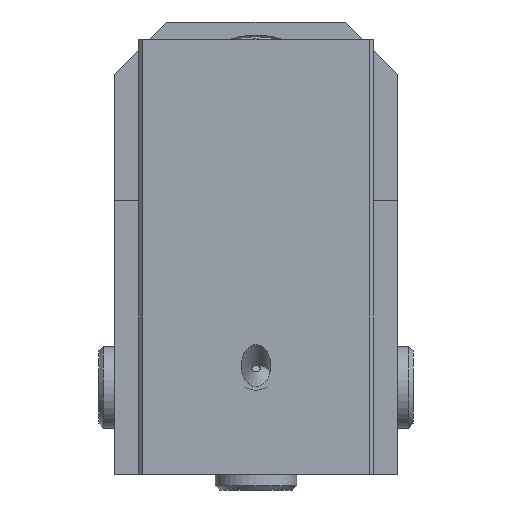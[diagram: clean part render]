
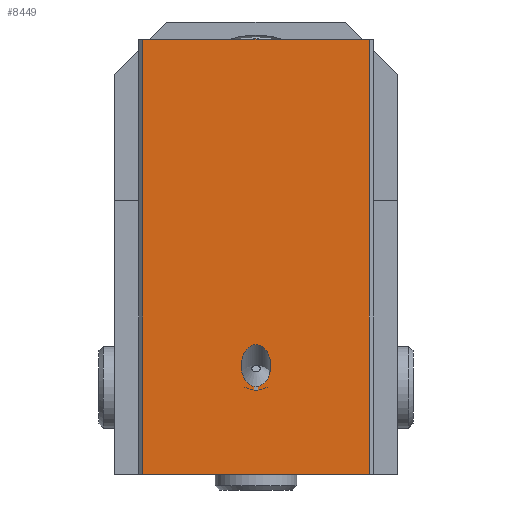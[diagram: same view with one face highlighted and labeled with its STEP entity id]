
A CAD part, front view. The second image highlights one B-rep face of the part: STEP entity #8449.
In plain terms, the highlighted planar face has unit normal (0, -1, 0).
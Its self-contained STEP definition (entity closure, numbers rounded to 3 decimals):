
#140=ELLIPSE('',#8820,4.808,3.4);
#141=ELLIPSE('',#8821,4.808,3.4);
#166=FACE_BOUND('',#1383,.T.);
#581=PLANE('',#8862);
#920=FACE_OUTER_BOUND('',#1382,.T.);
#1382=EDGE_LOOP('',(#6436,#6437,#6438,#6439));
#1383=EDGE_LOOP('',(#6440,#6441));
#1995=LINE('',#13575,#2625);
#2022=LINE('',#13666,#2652);
#2034=LINE('',#13689,#2664);
#2038=LINE('',#13696,#2668);
#2625=VECTOR('',#9930,10.);
#2652=VECTOR('',#10013,10.);
#2664=VECTOR('',#10027,10.);
#2668=VECTOR('',#10037,10.);
#3600=VERTEX_POINT('',#13571);
#3602=VERTEX_POINT('',#13574);
#3619=VERTEX_POINT('',#13610);
#3620=VERTEX_POINT('',#13612);
#3638=VERTEX_POINT('',#13664);
#3648=VERTEX_POINT('',#13687);
#4593=EDGE_CURVE('',#3602,#3600,#1995,.T.);
#4611=EDGE_CURVE('',#3620,#3619,#140,.T.);
#4612=EDGE_CURVE('',#3619,#3620,#141,.T.);
#4638=EDGE_CURVE('',#3638,#3600,#2022,.T.);
#4650=EDGE_CURVE('',#3638,#3648,#2034,.T.);
#4654=EDGE_CURVE('',#3602,#3648,#2038,.T.);
#6436=ORIENTED_EDGE('',*,*,#4638,.F.);
#6437=ORIENTED_EDGE('',*,*,#4650,.T.);
#6438=ORIENTED_EDGE('',*,*,#4654,.F.);
#6439=ORIENTED_EDGE('',*,*,#4593,.T.);
#6440=ORIENTED_EDGE('',*,*,#4611,.T.);
#6441=ORIENTED_EDGE('',*,*,#4612,.T.);
#8449=ADVANCED_FACE('',(#920,#166),#581,.T.);
#8820=AXIS2_PLACEMENT_3D('',#13613,#9954,#9955);
#8821=AXIS2_PLACEMENT_3D('',#13614,#9956,#9957);
#8862=AXIS2_PLACEMENT_3D('',#13739,#10078,#10079);
#9930=DIRECTION('',(1.,0.,0.));
#9954=DIRECTION('center_axis',(0.,1.,0.));
#9955=DIRECTION('ref_axis',(0.,0.,1.));
#9956=DIRECTION('center_axis',(0.,1.,0.));
#9957=DIRECTION('ref_axis',(0.,0.,1.));
#10013=DIRECTION('',(0.,0.,-1.));
#10027=DIRECTION('',(-1.,0.,0.));
#10037=DIRECTION('',(0.,0.,1.));
#10078=DIRECTION('center_axis',(0.,-1.,0.));
#10079=DIRECTION('ref_axis',(0.,0.,-1.));
#13571=CARTESIAN_POINT('',(31.072,-65.422,-50.));
#13574=CARTESIAN_POINT('',(-20.928,-65.422,-50.));
#13575=CARTESIAN_POINT('',(-21.928,-65.422,-50.));
#13610=CARTESIAN_POINT('',(5.072,-65.422,-29.808));
#13612=CARTESIAN_POINT('',(5.072,-65.422,-20.192));
#13613=CARTESIAN_POINT('Origin',(5.072,-65.422,-25.));
#13614=CARTESIAN_POINT('Origin',(5.072,-65.422,-25.));
#13664=CARTESIAN_POINT('',(31.072,-65.422,50.));
#13666=CARTESIAN_POINT('',(31.072,-65.422,0.));
#13687=CARTESIAN_POINT('',(-20.928,-65.422,50.));
#13689=CARTESIAN_POINT('',(-21.928,-65.422,50.));
#13696=CARTESIAN_POINT('',(-20.928,-65.422,0.));
#13739=CARTESIAN_POINT('Origin',(32.072,-65.422,0.));
